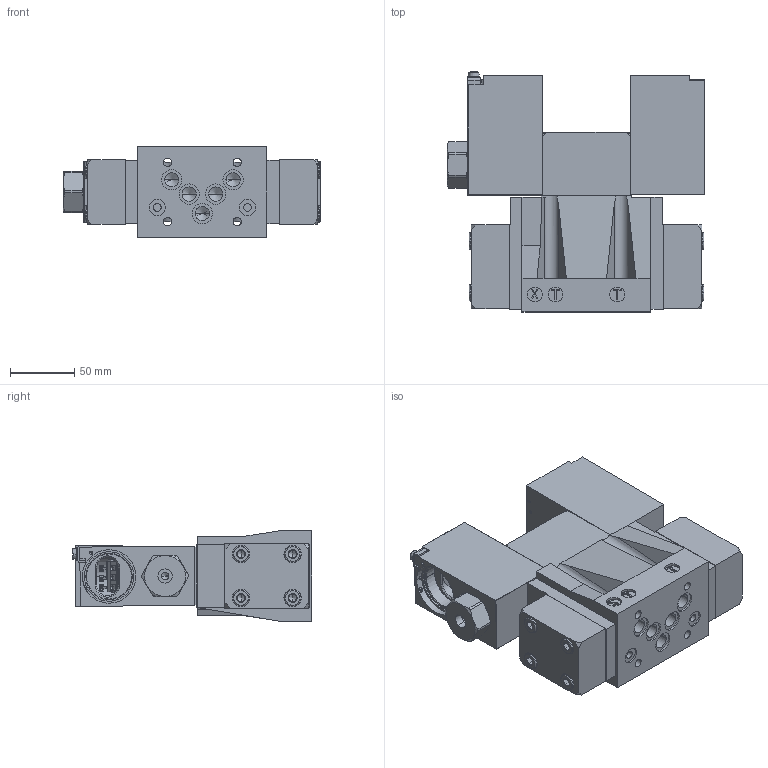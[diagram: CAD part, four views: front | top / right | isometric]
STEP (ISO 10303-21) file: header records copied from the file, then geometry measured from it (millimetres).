
FILE_DESCRIPTION((''),'2;1');
FILE_NAME('RNEHX1-103_ASM','2023-10-03T',('l.soukupova'),(''),'PRO/ENGINEER BY PARAMETRIC TECHNOLOGY CORPORATION, 2015440','PRO/ENGINEER BY PARAMETRIC TECHNOLOGY CORPORATION, 2015440','');
FILE_SCHEMA(('AUTOMOTIVE_DESIGN { 1 0 10303 214 1 1 1 1 }'));
Products named in the file (32): DUPLOMATIC_NG10R_1; RNEHX1-103_KAT_ASM_1_ASM; 1000429185_ASM; PRT0027; PRT0028; ASM0018_ASM; ASM0017_ASM; PRT0029; ASM0019_ASM; PRT0030; ASM0020_ASM; PRT0031; ASM0016_ASM; PRT0032; PRT0033; PRT0034; PRT0035; PRT0036; PRT0037; PRT0038; PRT0039; ASM0022_ASM; ASM0021_ASM; PRT0040; PRT0041; PRT0042; ASM0024_ASM; ASM0023_ASM; PRT0043; ASM0015_ASM; ASM0014_ASM; RNEHX1-103_ASM
Assembly tree (38 placements, depth 7):
  RNEHX1-103_ASM
    RNEHX1-103_KAT_ASM_1_ASM
      DUPLOMATIC_NG10R_1
    1000429185_ASM
    ASM0014_ASM
      ASM0015_ASM
        ASM0016_ASM
          PRT0027
          ASM0017_ASM  x2
            ASM0018_ASM
              PRT0028
          ASM0019_ASM  x3
            PRT0029
          ASM0020_ASM  x2
            PRT0030
          PRT0031  x4
        ASM0021_ASM
          ASM0022_ASM
            PRT0032
            PRT0033
            PRT0034
            PRT0035
            PRT0036
            PRT0037
            PRT0038
            PRT0039
        ASM0023_ASM
          ASM0024_ASM
            PRT0040
            PRT0041
            PRT0042
        PRT0043
Bounding box: 199.85 x 186.21 x 70 mm (x, y, z)
Volume: 1437315.2 mm3; surface area: 231742 mm2
Topology: 20 solids, 23 shells, 2179 faces, 6258 edges, 4573 vertices
Faces by surface type: plane 1076, cylinder 651, cone 208, torus 132, bspline 82, sphere 26, revolution 4
Entity records: 93953 total; most frequent: CARTESIAN_POINT 22581, DIRECTION 10591, ORIENTED_EDGE 9916, PRESENTATION_STYLE_ASSIGNMENT 5986, STYLED_ITEM 5288, CURVE_STYLE 5269, EDGE_CURVE 4964, AXIS2_PLACEMENT_3D 3889
